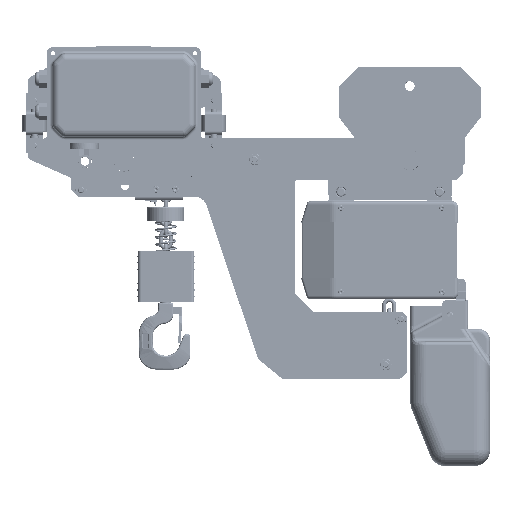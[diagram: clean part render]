
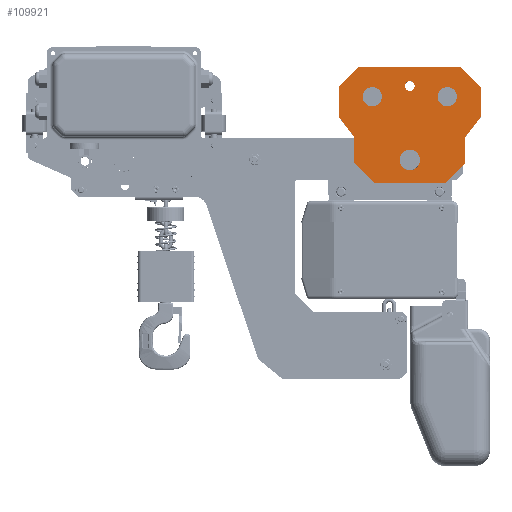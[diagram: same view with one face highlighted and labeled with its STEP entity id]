
A CAD part, top view. The second image highlights one B-rep face of the part: STEP entity #109921.
In plain terms, the highlighted planar face has unit normal (0, 0, 1).
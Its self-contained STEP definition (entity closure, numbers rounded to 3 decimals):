
#3136=LINE('',#157971,#10498);
#3140=LINE('',#157980,#10502);
#3144=LINE('',#157989,#10506);
#3155=LINE('',#158033,#10517);
#3156=LINE('',#158038,#10518);
#3157=LINE('',#158042,#10519);
#3158=LINE('',#158049,#10520);
#3159=LINE('',#158053,#10521);
#3160=LINE('',#158057,#10522);
#3161=LINE('',#158059,#10523);
#3162=LINE('',#158061,#10524);
#3163=LINE('',#158063,#10525);
#10498=VECTOR('',#129407,1000.);
#10502=VECTOR('',#129413,1000.);
#10506=VECTOR('',#129419,1000.);
#10517=VECTOR('',#129458,1000.);
#10518=VECTOR('',#129461,1000.);
#10519=VECTOR('',#129464,1000.);
#10520=VECTOR('',#129473,1000.);
#10521=VECTOR('',#129476,1000.);
#10522=VECTOR('',#129479,1000.);
#10523=VECTOR('',#129480,1000.);
#10524=VECTOR('',#129481,1000.);
#10525=VECTOR('',#129482,1000.);
#17839=PLANE('',#118115);
#20836=CIRCLE('',#118022,15.75);
#20886=CIRCLE('',#118116,14.75);
#20887=CIRCLE('',#118117,14.75);
#20888=CIRCLE('',#118118,1.);
#20889=CIRCLE('',#118119,1.);
#20890=CIRCLE('',#118120,1.);
#20891=CIRCLE('',#118121,1.);
#20892=CIRCLE('',#118122,1.);
#20893=CIRCLE('',#118123,1.);
#20894=CIRCLE('',#118124,1.);
#20895=CIRCLE('',#118125,1.);
#20896=CIRCLE('',#118126,7.5);
#25966=ORIENTED_EDGE('',*,*,#58655,.T.);
#25967=ORIENTED_EDGE('',*,*,#58656,.T.);
#25968=ORIENTED_EDGE('',*,*,#58657,.F.);
#25969=ORIENTED_EDGE('',*,*,#58658,.T.);
#25970=ORIENTED_EDGE('',*,*,#58659,.T.);
#25971=ORIENTED_EDGE('',*,*,#58660,.T.);
#25972=ORIENTED_EDGE('',*,*,#58661,.F.);
#25973=ORIENTED_EDGE('',*,*,#58662,.T.);
#25974=ORIENTED_EDGE('',*,*,#58626,.F.);
#25975=ORIENTED_EDGE('',*,*,#58663,.T.);
#25976=ORIENTED_EDGE('',*,*,#58630,.F.);
#25977=ORIENTED_EDGE('',*,*,#58664,.T.);
#25978=ORIENTED_EDGE('',*,*,#58634,.F.);
#25979=ORIENTED_EDGE('',*,*,#58665,.T.);
#25980=ORIENTED_EDGE('',*,*,#58666,.F.);
#25981=ORIENTED_EDGE('',*,*,#58667,.T.);
#25982=ORIENTED_EDGE('',*,*,#58668,.T.);
#25983=ORIENTED_EDGE('',*,*,#58669,.T.);
#25984=ORIENTED_EDGE('',*,*,#58670,.F.);
#25985=ORIENTED_EDGE('',*,*,#58671,.T.);
#25986=ORIENTED_EDGE('',*,*,#58672,.F.);
#25987=ORIENTED_EDGE('',*,*,#58673,.T.);
#25988=ORIENTED_EDGE('',*,*,#58674,.F.);
#25989=ORIENTED_EDGE('',*,*,#58583,.F.);
#58583=EDGE_CURVE('',#75053,#75053,#20836,.T.);
#58626=EDGE_CURVE('',#75096,#75097,#3136,.T.);
#58630=EDGE_CURVE('',#75100,#75101,#3140,.T.);
#58634=EDGE_CURVE('',#75104,#75105,#3144,.T.);
#58655=EDGE_CURVE('',#75122,#75122,#20886,.T.);
#58656=EDGE_CURVE('',#75123,#75123,#20887,.T.);
#58657=EDGE_CURVE('',#75124,#75125,#3155,.F.);
#58658=EDGE_CURVE('',#75124,#75126,#20888,.T.);
#58659=EDGE_CURVE('',#75126,#75127,#3156,.T.);
#58660=EDGE_CURVE('',#75127,#75128,#20889,.F.);
#58661=EDGE_CURVE('',#75129,#75128,#3157,.T.);
#58662=EDGE_CURVE('',#75129,#75097,#20890,.T.);
#58663=EDGE_CURVE('',#75096,#75101,#20891,.T.);
#58664=EDGE_CURVE('',#75100,#75105,#20892,.T.);
#58665=EDGE_CURVE('',#75104,#75130,#20893,.T.);
#58666=EDGE_CURVE('',#75131,#75130,#3158,.T.);
#58667=EDGE_CURVE('',#75131,#75132,#20894,.F.);
#58668=EDGE_CURVE('',#75132,#75133,#3159,.T.);
#58669=EDGE_CURVE('',#75133,#75134,#20895,.T.);
#58670=EDGE_CURVE('',#75135,#75134,#3160,.F.);
#58671=EDGE_CURVE('',#75135,#75136,#3161,.T.);
#58672=EDGE_CURVE('',#75137,#75136,#3162,.T.);
#58673=EDGE_CURVE('',#75137,#75125,#3163,.T.);
#58674=EDGE_CURVE('',#75138,#75138,#20896,.T.);
#75053=VERTEX_POINT('',#157827);
#75096=VERTEX_POINT('',#157970);
#75097=VERTEX_POINT('',#157972);
#75100=VERTEX_POINT('',#157979);
#75101=VERTEX_POINT('',#157981);
#75104=VERTEX_POINT('',#157988);
#75105=VERTEX_POINT('',#157990);
#75122=VERTEX_POINT('',#158030);
#75123=VERTEX_POINT('',#158032);
#75124=VERTEX_POINT('',#158034);
#75125=VERTEX_POINT('',#158035);
#75126=VERTEX_POINT('',#158037);
#75127=VERTEX_POINT('',#158039);
#75128=VERTEX_POINT('',#158041);
#75129=VERTEX_POINT('',#158043);
#75130=VERTEX_POINT('',#158048);
#75131=VERTEX_POINT('',#158050);
#75132=VERTEX_POINT('',#158052);
#75133=VERTEX_POINT('',#158054);
#75134=VERTEX_POINT('',#158056);
#75135=VERTEX_POINT('',#158058);
#75136=VERTEX_POINT('',#158060);
#75137=VERTEX_POINT('',#158062);
#75138=VERTEX_POINT('',#158065);
#90434=EDGE_LOOP('',(#25966));
#90435=EDGE_LOOP('',(#25967));
#90436=EDGE_LOOP('',(#25968,#25969,#25970,#25971,#25972,#25973,#25974,#25975,
#25976,#25977,#25978,#25979,#25980,#25981,#25982,#25983,#25984,#25985,#25986,
#25987));
#90437=EDGE_LOOP('',(#25988));
#90438=EDGE_LOOP('',(#25989));
#99281=FACE_BOUND('',#90434,.T.);
#99282=FACE_BOUND('',#90435,.T.);
#99283=FACE_BOUND('',#90436,.T.);
#99284=FACE_BOUND('',#90437,.T.);
#99285=FACE_BOUND('',#90438,.T.);
#109921=ADVANCED_FACE('',(#99281,#99282,#99283,#99284,#99285),#17839,.F.);
#118022=AXIS2_PLACEMENT_3D('',#157826,#129245,#129246);
#118115=AXIS2_PLACEMENT_3D('',#158028,#129452,#129453);
#118116=AXIS2_PLACEMENT_3D('',#158029,#129454,#129455);
#118117=AXIS2_PLACEMENT_3D('',#158031,#129456,#129457);
#118118=AXIS2_PLACEMENT_3D('',#158036,#129459,#129460);
#118119=AXIS2_PLACEMENT_3D('',#158040,#129462,#129463);
#118120=AXIS2_PLACEMENT_3D('',#158044,#129465,#129466);
#118121=AXIS2_PLACEMENT_3D('',#158045,#129467,#129468);
#118122=AXIS2_PLACEMENT_3D('',#158046,#129469,#129470);
#118123=AXIS2_PLACEMENT_3D('',#158047,#129471,#129472);
#118124=AXIS2_PLACEMENT_3D('',#158051,#129474,#129475);
#118125=AXIS2_PLACEMENT_3D('',#158055,#129477,#129478);
#118126=AXIS2_PLACEMENT_3D('',#158064,#129483,#129484);
#129245=DIRECTION('',(0.,0.,1.));
#129246=DIRECTION('',(0.,1.,0.));
#129407=DIRECTION('',(-0.707,0.707,0.));
#129413=DIRECTION('',(-1.,0.,0.));
#129419=DIRECTION('',(-0.707,-0.707,0.));
#129452=DIRECTION('',(0.,0.,-1.));
#129453=DIRECTION('',(-1.,0.,0.));
#129454=DIRECTION('',(0.,0.,-1.));
#129455=DIRECTION('',(0.,-1.,0.));
#129456=DIRECTION('',(0.,0.,-1.));
#129457=DIRECTION('',(0.,-1.,0.));
#129458=DIRECTION('',(0.,-1.,0.));
#129459=DIRECTION('',(0.,0.,1.));
#129460=DIRECTION('',(1.,0.,0.));
#129461=DIRECTION('',(0.611,-0.791,0.));
#129462=DIRECTION('',(0.,0.,1.));
#129463=DIRECTION('',(1.,0.,0.));
#129464=DIRECTION('',(0.,1.,0.));
#129465=DIRECTION('',(0.,0.,1.));
#129466=DIRECTION('',(1.,0.,0.));
#129467=DIRECTION('',(0.,0.,1.));
#129468=DIRECTION('',(1.,0.,0.));
#129469=DIRECTION('',(0.,0.,1.));
#129470=DIRECTION('',(1.,0.,0.));
#129471=DIRECTION('',(0.,0.,1.));
#129472=DIRECTION('',(1.,0.,0.));
#129473=DIRECTION('',(0.,-1.,0.));
#129474=DIRECTION('',(0.,0.,1.));
#129475=DIRECTION('',(1.,0.,0.));
#129476=DIRECTION('',(0.611,0.791,0.));
#129477=DIRECTION('',(0.,0.,1.));
#129478=DIRECTION('',(1.,0.,0.));
#129479=DIRECTION('',(0.,1.,0.));
#129480=DIRECTION('',(-0.707,0.707,0.));
#129481=DIRECTION('',(1.,0.,0.));
#129482=DIRECTION('',(-0.707,-0.707,0.));
#129483=DIRECTION('',(0.,0.,1.));
#129484=DIRECTION('',(-1.,0.,0.));
#157826=CARTESIAN_POINT('',(0.5,-527.742,351.678));
#157827=CARTESIAN_POINT('',(0.5,-511.992,351.678));
#157970=CARTESIAN_POINT('',(-54.793,-562.449,351.678));
#157971=CARTESIAN_POINT('',(-60.358,-556.884,351.678));
#157972=CARTESIAN_POINT('',(-84.207,-533.035,351.678));
#157979=CARTESIAN_POINT('',(55.086,-562.742,351.678));
#157980=CARTESIAN_POINT('',(47.216,-562.742,351.678));
#157981=CARTESIAN_POINT('',(-54.086,-562.742,351.678));
#157988=CARTESIAN_POINT('',(85.207,-533.035,351.678));
#157989=CARTESIAN_POINT('',(79.642,-538.6,351.678));
#157990=CARTESIAN_POINT('',(55.793,-562.449,351.678));
#158028=CARTESIAN_POINT('',(109.5,-433.472,351.678));
#158029=CARTESIAN_POINT('',(-57.,-430.742,351.678));
#158030=CARTESIAN_POINT('',(-57.,-445.492,351.678));
#158031=CARTESIAN_POINT('',(58.,-430.742,351.678));
#158032=CARTESIAN_POINT('',(58.,-445.492,351.678));
#158033=CARTESIAN_POINT('',(-108.5,-450.742,351.678));
#158034=CARTESIAN_POINT('',(-108.5,-461.269,351.678));
#158035=CARTESIAN_POINT('',(-108.5,-415.742,351.678));
#158036=CARTESIAN_POINT('',(-107.5,-461.269,351.678));
#158037=CARTESIAN_POINT('',(-108.291,-461.88,351.678));
#158038=CARTESIAN_POINT('',(-28.697,-564.932,351.678));
#158039=CARTESIAN_POINT('',(-84.709,-492.413,351.678));
#158040=CARTESIAN_POINT('',(-85.5,-493.024,351.678));
#158041=CARTESIAN_POINT('',(-84.5,-493.024,351.678));
#158042=CARTESIAN_POINT('',(-84.5,-527.188,351.678));
#158043=CARTESIAN_POINT('',(-84.5,-532.328,351.678));
#158044=CARTESIAN_POINT('',(-83.5,-532.328,351.678));
#158045=CARTESIAN_POINT('',(-54.086,-561.742,351.678));
#158046=CARTESIAN_POINT('',(55.086,-561.742,351.678));
#158047=CARTESIAN_POINT('',(84.5,-532.328,351.678));
#158048=CARTESIAN_POINT('',(85.5,-532.328,351.678));
#158049=CARTESIAN_POINT('',(85.5,-495.472,351.678));
#158050=CARTESIAN_POINT('',(85.5,-493.024,351.678));
#158051=CARTESIAN_POINT('',(86.5,-493.024,351.678));
#158052=CARTESIAN_POINT('',(85.709,-492.413,351.678));
#158053=CARTESIAN_POINT('',(125.374,-441.058,351.678));
#158054=CARTESIAN_POINT('',(109.291,-461.88,351.678));
#158055=CARTESIAN_POINT('',(108.5,-461.269,351.678));
#158056=CARTESIAN_POINT('',(109.5,-461.269,351.678));
#158057=CARTESIAN_POINT('',(109.5,-410.742,351.678));
#158058=CARTESIAN_POINT('',(109.5,-415.742,351.678));
#158059=CARTESIAN_POINT('',(109.5,-415.742,351.678));
#158060=CARTESIAN_POINT('',(79.5,-385.742,351.678));
#158061=CARTESIAN_POINT('',(-31.7,-385.742,351.678));
#158062=CARTESIAN_POINT('',(-78.5,-385.742,351.678));
#158063=CARTESIAN_POINT('',(-78.5,-385.742,351.678));
#158064=CARTESIAN_POINT('',(0.5,-414.242,351.678));
#158065=CARTESIAN_POINT('',(-7.,-414.242,351.678));
